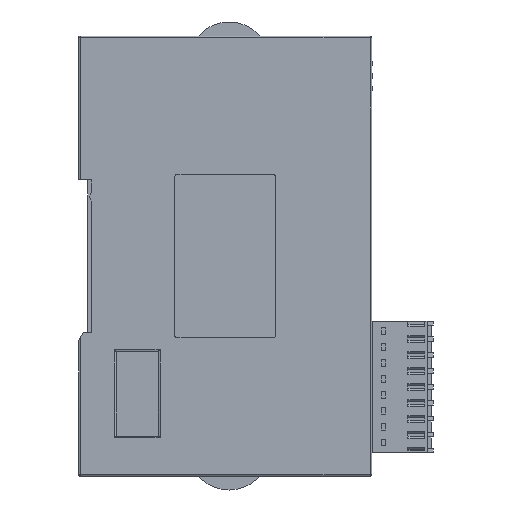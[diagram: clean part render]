
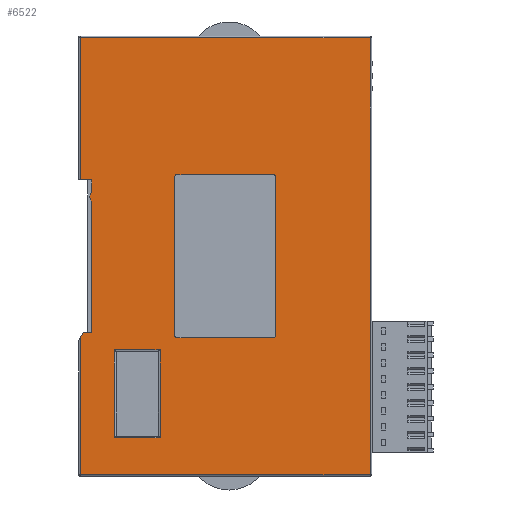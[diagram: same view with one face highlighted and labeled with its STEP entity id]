
A CAD part, left-side view. The second image highlights one B-rep face of the part: STEP entity #6522.
In plain terms, the highlighted planar face has unit normal (-1, 0, 0).
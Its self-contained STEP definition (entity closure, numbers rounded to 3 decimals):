
#6522=ADVANCED_FACE('',(#18432,#18434,#18436),#18438,.T.);
#18432=FACE_BOUND('',#18433,.T.);
#18433=EDGE_LOOP('',(#26921,#26922,#26923,#26924,#26925,#26926,#26927,#26928,#26929,
#26930,#26931));
#18434=FACE_BOUND('',#18435,.T.);
#18435=EDGE_LOOP('',(#26932,#26933,#26934,#26935,#26936,#26937,#26938,#26939));
#18436=FACE_BOUND('',#18437,.T.);
#18437=EDGE_LOOP('',(#26940,#26941,#26942,#26943));
#18438=PLANE('',#18439);
#18439=AXIS2_PLACEMENT_3D('',#18440,#18441,#18442);
#18440=CARTESIAN_POINT('',(-345.903,-44.348,173.566));
#18441=DIRECTION('',(-1.,0.,0.));
#18442=DIRECTION('',(0.,0.,1.));
#26921=ORIENTED_EDGE('',*,*,#33001,.F.);
#26922=ORIENTED_EDGE('',*,*,#33002,.F.);
#26923=ORIENTED_EDGE('',*,*,#33003,.T.);
#26924=ORIENTED_EDGE('',*,*,#33004,.T.);
#26925=ORIENTED_EDGE('',*,*,#33005,.T.);
#26926=ORIENTED_EDGE('',*,*,#33006,.T.);
#26927=ORIENTED_EDGE('',*,*,#33007,.T.);
#26928=ORIENTED_EDGE('',*,*,#33008,.F.);
#26929=ORIENTED_EDGE('',*,*,#33009,.F.);
#26930=ORIENTED_EDGE('',*,*,#33010,.F.);
#26931=ORIENTED_EDGE('',*,*,#32304,.F.);
#26932=ORIENTED_EDGE('',*,*,#33011,.F.);
#26933=ORIENTED_EDGE('',*,*,#33012,.F.);
#26934=ORIENTED_EDGE('',*,*,#33013,.F.);
#26935=ORIENTED_EDGE('',*,*,#33014,.F.);
#26936=ORIENTED_EDGE('',*,*,#33015,.F.);
#26937=ORIENTED_EDGE('',*,*,#33016,.F.);
#26938=ORIENTED_EDGE('',*,*,#33017,.F.);
#26939=ORIENTED_EDGE('',*,*,#33018,.F.);
#26940=ORIENTED_EDGE('',*,*,#33019,.F.);
#26941=ORIENTED_EDGE('',*,*,#33020,.F.);
#26942=ORIENTED_EDGE('',*,*,#33021,.F.);
#26943=ORIENTED_EDGE('',*,*,#33022,.F.);
#32304=EDGE_CURVE('',#38131,#38129,#38133,.T.);
#33001=EDGE_CURVE('',#39249,#38131,#39250,.T.);
#33002=EDGE_CURVE('',#39251,#39249,#39252,.T.);
#33003=EDGE_CURVE('',#39251,#39253,#39254,.T.);
#33004=EDGE_CURVE('',#39253,#39255,#39256,.T.);
#33005=EDGE_CURVE('',#39255,#39257,#39258,.T.);
#33006=EDGE_CURVE('',#39257,#39259,#39260,.T.);
#33007=EDGE_CURVE('',#39259,#39261,#39262,.T.);
#33008=EDGE_CURVE('',#39263,#39261,#39264,.T.);
#33009=EDGE_CURVE('',#39265,#39263,#39266,.T.);
#33010=EDGE_CURVE('',#38129,#39265,#39267,.T.);
#33011=EDGE_CURVE('',#39268,#39269,#39270,.T.);
#33012=EDGE_CURVE('',#39271,#39268,#39272,.T.);
#33013=EDGE_CURVE('',#39273,#39271,#39274,.T.);
#33014=EDGE_CURVE('',#39275,#39273,#39276,.T.);
#33015=EDGE_CURVE('',#39277,#39275,#39278,.T.);
#33016=EDGE_CURVE('',#39279,#39277,#39280,.T.);
#33017=EDGE_CURVE('',#39281,#39279,#39282,.T.);
#33018=EDGE_CURVE('',#39269,#39281,#39283,.T.);
#33019=EDGE_CURVE('',#39284,#39285,#39286,.T.);
#33020=EDGE_CURVE('',#39287,#39284,#39288,.T.);
#33021=EDGE_CURVE('',#39289,#39287,#39290,.T.);
#33022=EDGE_CURVE('',#39285,#39289,#39291,.T.);
#38129=VERTEX_POINT('',#48412);
#38131=VERTEX_POINT('',#48417);
#38133=LINE('',#48422,#48423);
#39249=VERTEX_POINT('',#59578);
#39250=LINE('',#59579,#59580);
#39251=VERTEX_POINT('',#59582);
#39252=LINE('',#59583,#59584);
#39253=VERTEX_POINT('',#59586);
#39254=LINE('',#59587,#59588);
#39255=VERTEX_POINT('',#59590);
#39256=LINE('',#59591,#59592);
#39257=VERTEX_POINT('',#59594);
#39258=CIRCLE('',#59595,2.);
#39259=VERTEX_POINT('',#59599);
#39260=LINE('',#59600,#59601);
#39261=VERTEX_POINT('',#59603);
#39262=LINE('',#59604,#59605);
#39263=VERTEX_POINT('',#59607);
#39264=LINE('',#59608,#59609);
#39265=VERTEX_POINT('',#59611);
#39266=LINE('',#59612,#59613);
#39267=LINE('',#59615,#59616);
#39268=VERTEX_POINT('',#59618);
#39269=VERTEX_POINT('',#59619);
#39270=LINE('',#59620,#59621);
#39271=VERTEX_POINT('',#59623);
#39272=CIRCLE('',#59624,0.5);
#39273=VERTEX_POINT('',#59628);
#39274=LINE('',#59629,#59630);
#39275=VERTEX_POINT('',#59632);
#39276=CIRCLE('',#59633,0.5);
#39277=VERTEX_POINT('',#59637);
#39278=LINE('',#59638,#59639);
#39279=VERTEX_POINT('',#59641);
#39280=CIRCLE('',#59642,0.5);
#39281=VERTEX_POINT('',#59646);
#39282=LINE('',#59647,#59648);
#39283=CIRCLE('',#59650,0.5);
#39284=VERTEX_POINT('',#59654);
#39285=VERTEX_POINT('',#59655);
#39286=LINE('',#59656,#59657);
#39287=VERTEX_POINT('',#59659);
#39288=LINE('',#59660,#59661);
#39289=VERTEX_POINT('',#59663);
#39290=LINE('',#59664,#59665);
#39291=LINE('',#59667,#59668);
#48412=CARTESIAN_POINT('',(-345.903,-120.48,183.998));
#48417=CARTESIAN_POINT('',(-345.903,-120.48,288.198));
#48422=CARTESIAN_POINT('',(-345.903,-120.48,288.198));
#48423=VECTOR('',#48424,1.);
#48424=DIRECTION('',(0.,0.,-1.));
#59578=CARTESIAN_POINT('',(-345.903,-51.28,288.198));
#59579=CARTESIAN_POINT('',(-345.903,-51.28,288.198));
#59580=VECTOR('',#59581,1.);
#59581=DIRECTION('',(0.,-1.,0.));
#59582=CARTESIAN_POINT('',(-345.903,-51.28,254.298));
#59583=CARTESIAN_POINT('',(-345.903,-51.28,254.298));
#59584=VECTOR('',#59585,1.);
#59585=DIRECTION('',(0.,0.,1.));
#59586=CARTESIAN_POINT('',(-345.903,-54.08,254.298));
#59587=CARTESIAN_POINT('',(-345.903,-51.28,254.298));
#59588=VECTOR('',#59589,1.);
#59589=DIRECTION('',(0.,-1.,0.));
#59590=CARTESIAN_POINT('',(-345.903,-54.08,251.62));
#59591=CARTESIAN_POINT('',(-345.903,-54.08,254.298));
#59592=VECTOR('',#59593,1.);
#59593=DIRECTION('',(0.,0.,-1.));
#59594=CARTESIAN_POINT('',(-345.903,-54.08,248.975));
#59595=AXIS2_PLACEMENT_3D('',#59596,#59597,#59598);
#59596=CARTESIAN_POINT('',(-345.903,-55.58,250.298));
#59597=DIRECTION('',(-1.,0.,0.));
#59598=DIRECTION('',(0.,0.75,0.661));
#59599=CARTESIAN_POINT('',(-345.903,-54.08,217.898));
#59600=CARTESIAN_POINT('',(-345.903,-54.08,248.975));
#59601=VECTOR('',#59602,1.);
#59602=DIRECTION('',(0.,0.,-1.));
#59603=CARTESIAN_POINT('',(-345.903,-52.08,217.898));
#59604=CARTESIAN_POINT('',(-345.903,-54.08,217.898));
#59605=VECTOR('',#59606,1.);
#59606=DIRECTION('',(0.,1.,0.));
#59607=CARTESIAN_POINT('',(-345.903,-51.28,216.564));
#59608=CARTESIAN_POINT('',(-345.903,-51.28,216.564));
#59609=VECTOR('',#59610,1.);
#59610=DIRECTION('',(0.,-0.515,0.857));
#59611=CARTESIAN_POINT('',(-345.903,-51.28,183.998));
#59612=CARTESIAN_POINT('',(-345.903,-51.28,183.998));
#59613=VECTOR('',#59614,1.);
#59614=DIRECTION('',(0.,0.,1.));
#59615=CARTESIAN_POINT('',(-345.903,-120.48,183.998));
#59616=VECTOR('',#59617,1.);
#59617=DIRECTION('',(0.,1.,0.));
#59618=CARTESIAN_POINT('',(-345.903,-97.38,255.598));
#59619=CARTESIAN_POINT('',(-345.903,-74.38,255.598));
#59620=CARTESIAN_POINT('',(-345.903,-97.38,255.598));
#59621=VECTOR('',#59622,1.);
#59622=DIRECTION('',(0.,1.,0.));
#59623=CARTESIAN_POINT('',(-345.903,-97.88,255.098));
#59624=AXIS2_PLACEMENT_3D('',#59625,#59626,#59627);
#59625=CARTESIAN_POINT('',(-345.903,-97.38,255.098));
#59626=DIRECTION('',(-1.,0.,0.));
#59627=DIRECTION('',(0.,-1.,0.));
#59628=CARTESIAN_POINT('',(-345.903,-97.88,217.098));
#59629=CARTESIAN_POINT('',(-345.903,-97.88,217.098));
#59630=VECTOR('',#59631,1.);
#59631=DIRECTION('',(0.,0.,1.));
#59632=CARTESIAN_POINT('',(-345.903,-97.38,216.598));
#59633=AXIS2_PLACEMENT_3D('',#59634,#59635,#59636);
#59634=CARTESIAN_POINT('',(-345.903,-97.38,217.098));
#59635=DIRECTION('',(-1.,0.,0.));
#59636=DIRECTION('',(0.,0.,-1.));
#59637=CARTESIAN_POINT('',(-345.903,-74.38,216.598));
#59638=CARTESIAN_POINT('',(-345.903,-74.38,216.598));
#59639=VECTOR('',#59640,1.);
#59640=DIRECTION('',(0.,-1.,0.));
#59641=CARTESIAN_POINT('',(-345.903,-73.88,217.098));
#59642=AXIS2_PLACEMENT_3D('',#59643,#59644,#59645);
#59643=CARTESIAN_POINT('',(-345.903,-74.38,217.098));
#59644=DIRECTION('',(-1.,0.,0.));
#59645=DIRECTION('',(0.,1.,0.));
#59646=CARTESIAN_POINT('',(-345.903,-73.88,255.098));
#59647=CARTESIAN_POINT('',(-345.903,-73.88,255.098));
#59648=VECTOR('',#59649,1.);
#59649=DIRECTION('',(0.,0.,-1.));
#59650=AXIS2_PLACEMENT_3D('',#59651,#59652,#59653);
#59651=CARTESIAN_POINT('',(-345.903,-74.38,255.098));
#59652=DIRECTION('',(-1.,0.,0.));
#59653=DIRECTION('',(0.,0.,1.));
#59654=CARTESIAN_POINT('',(-345.903,-70.34,192.748));
#59655=CARTESIAN_POINT('',(-345.903,-70.34,213.748));
#59656=CARTESIAN_POINT('',(-345.903,-70.34,192.748));
#59657=VECTOR('',#59658,1.);
#59658=DIRECTION('',(0.,0.,1.));
#59659=CARTESIAN_POINT('',(-345.903,-59.45,192.748));
#59660=CARTESIAN_POINT('',(-345.903,-59.45,192.748));
#59661=VECTOR('',#59662,1.);
#59662=DIRECTION('',(0.,-1.,0.));
#59663=CARTESIAN_POINT('',(-345.903,-59.45,213.748));
#59664=CARTESIAN_POINT('',(-345.903,-59.45,213.748));
#59665=VECTOR('',#59666,1.);
#59666=DIRECTION('',(0.,0.,-1.));
#59667=CARTESIAN_POINT('',(-345.903,-70.34,213.748));
#59668=VECTOR('',#59669,1.);
#59669=DIRECTION('',(0.,1.,0.));
